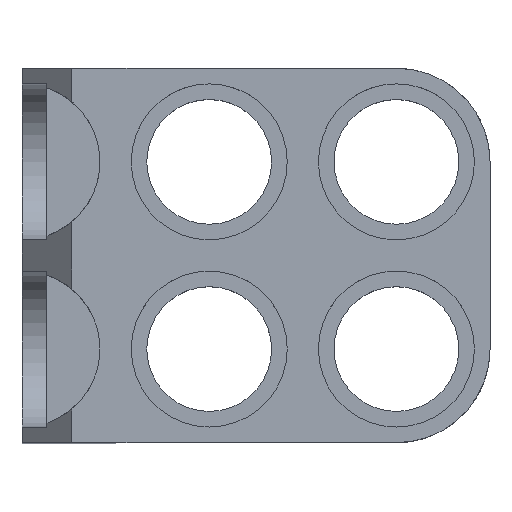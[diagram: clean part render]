
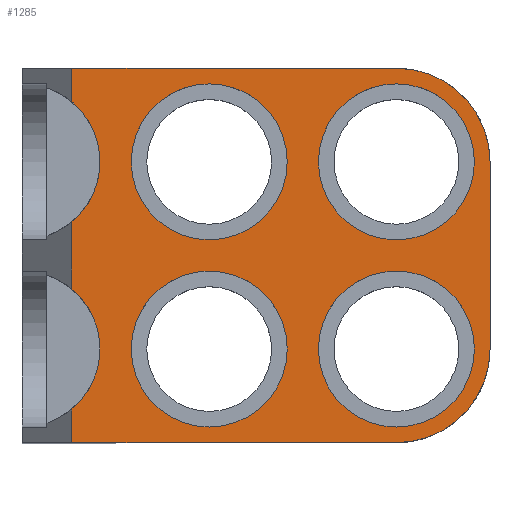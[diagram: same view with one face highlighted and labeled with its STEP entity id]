
A CAD part, top view. The second image highlights one B-rep face of the part: STEP entity #1285.
In plain terms, the highlighted planar face has unit normal (0, 0, 1).
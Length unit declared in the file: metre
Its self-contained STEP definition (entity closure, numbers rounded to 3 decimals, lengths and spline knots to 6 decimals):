
#16=LINE('',#2395,#87);
#25=LINE('',#2449,#96);
#27=LINE('',#2453,#98);
#47=LINE('',#2542,#118);
#64=LINE('',#2624,#135);
#65=LINE('',#2627,#136);
#87=VECTOR('',#1991,1.);
#96=VECTOR('',#2030,1.);
#98=VECTOR('',#2034,1.);
#118=VECTOR('',#2120,1.);
#135=VECTOR('',#2205,1.);
#136=VECTOR('',#2208,1.);
#169=PLANE('',#1906);
#195=CIRCLE('',#1821,0.0025);
#197=CIRCLE('',#1825,0.0025);
#199=CIRCLE('',#1829,0.0025);
#208=CIRCLE('',#1845,0.003);
#234=CIRCLE('',#1883,0.0025);
#249=CIRCLE('',#1907,0.003);
#250=CIRCLE('',#1908,0.0025);
#251=CIRCLE('',#1909,0.0025);
#417=ORIENTED_EDGE('',*,*,#689,.T.);
#418=ORIENTED_EDGE('',*,*,#606,.T.);
#419=ORIENTED_EDGE('',*,*,#690,.T.);
#420=ORIENTED_EDGE('',*,*,#691,.T.);
#421=ORIENTED_EDGE('',*,*,#618,.T.);
#422=ORIENTED_EDGE('',*,*,#650,.F.);
#423=ORIENTED_EDGE('',*,*,#608,.T.);
#424=ORIENTED_EDGE('',*,*,#590,.F.);
#425=ORIENTED_EDGE('',*,*,#587,.T.);
#426=ORIENTED_EDGE('',*,*,#580,.F.);
#427=ORIENTED_EDGE('',*,*,#667,.F.);
#428=ORIENTED_EDGE('',*,*,#692,.F.);
#429=ORIENTED_EDGE('',*,*,#693,.F.);
#430=ORIENTED_EDGE('',*,*,#594,.F.);
#580=EDGE_CURVE('',#733,#734,#195,.T.);
#587=EDGE_CURVE('',#740,#734,#16,.T.);
#590=EDGE_CURVE('',#740,#742,#197,.T.);
#594=EDGE_CURVE('',#744,#744,#199,.T.);
#606=EDGE_CURVE('',#756,#755,#25,.T.);
#608=EDGE_CURVE('',#757,#742,#27,.T.);
#618=EDGE_CURVE('',#767,#766,#208,.T.);
#650=EDGE_CURVE('',#757,#766,#47,.T.);
#667=EDGE_CURVE('',#806,#806,#234,.T.);
#689=EDGE_CURVE('',#733,#756,#64,.T.);
#690=EDGE_CURVE('',#755,#824,#249,.T.);
#691=EDGE_CURVE('',#824,#767,#65,.T.);
#692=EDGE_CURVE('',#825,#825,#250,.T.);
#693=EDGE_CURVE('',#826,#826,#251,.T.);
#733=VERTEX_POINT('',#2374);
#734=VERTEX_POINT('',#2376);
#740=VERTEX_POINT('',#2396);
#742=VERTEX_POINT('',#2408);
#744=VERTEX_POINT('',#2422);
#755=VERTEX_POINT('',#2448);
#756=VERTEX_POINT('',#2450);
#757=VERTEX_POINT('',#2454);
#766=VERTEX_POINT('',#2474);
#767=VERTEX_POINT('',#2476);
#806=VERTEX_POINT('',#2576);
#824=VERTEX_POINT('',#2626);
#825=VERTEX_POINT('',#2629);
#826=VERTEX_POINT('',#2631);
#913=EDGE_LOOP('',(#417,#418,#419,#420,#421,#422,#423,#424,#425,#426));
#914=EDGE_LOOP('',(#427));
#915=EDGE_LOOP('',(#428));
#916=EDGE_LOOP('',(#429));
#917=EDGE_LOOP('',(#430));
#1054=FACE_BOUND('',#913,.T.);
#1055=FACE_BOUND('',#914,.T.);
#1056=FACE_BOUND('',#915,.T.);
#1057=FACE_BOUND('',#916,.T.);
#1058=FACE_BOUND('',#917,.T.);
#1285=ADVANCED_FACE('',(#1054,#1055,#1056,#1057,#1058),#169,.T.);
#1821=AXIS2_PLACEMENT_3D('',#2375,#1981,#1982);
#1825=AXIS2_PLACEMENT_3D('',#2407,#1995,#1996);
#1829=AXIS2_PLACEMENT_3D('',#2421,#2004,#2005);
#1845=AXIS2_PLACEMENT_3D('',#2475,#2051,#2052);
#1883=AXIS2_PLACEMENT_3D('',#2575,#2150,#2151);
#1906=AXIS2_PLACEMENT_3D('',#2623,#2203,#2204);
#1907=AXIS2_PLACEMENT_3D('',#2625,#2206,#2207);
#1908=AXIS2_PLACEMENT_3D('',#2628,#2209,#2210);
#1909=AXIS2_PLACEMENT_3D('',#2630,#2211,#2212);
#1981=DIRECTION('',(0.,0.,1.));
#1982=DIRECTION('',(0.64,-0.768,0.));
#1991=DIRECTION('',(0.,-1.,0.));
#1995=DIRECTION('',(0.,0.,1.));
#1996=DIRECTION('',(0.64,-0.768,0.));
#2004=DIRECTION('',(0.,0.,1.));
#2005=DIRECTION('',(0.,-1.,0.));
#2030=DIRECTION('',(1.,0.,0.));
#2034=DIRECTION('',(0.,-1.,0.));
#2051=DIRECTION('',(0.,0.,1.));
#2052=DIRECTION('',(1.,0.,0.));
#2120=DIRECTION('',(1.,0.,0.));
#2150=DIRECTION('',(0.,0.,1.));
#2151=DIRECTION('',(0.,1.,0.));
#2203=DIRECTION('',(0.,0.,1.));
#2204=DIRECTION('',(1.,0.,0.));
#2205=DIRECTION('',(0.,-1.,0.));
#2206=DIRECTION('',(0.,0.,1.));
#2207=DIRECTION('',(0.,-1.,0.));
#2208=DIRECTION('',(0.,1.,0.));
#2209=DIRECTION('',(0.,0.,1.));
#2210=DIRECTION('',(0.,1.,0.));
#2211=DIRECTION('',(0.,0.,1.));
#2212=DIRECTION('',(0.,1.,0.));
#2374=CARTESIAN_POINT('',(0.0016,-0.004921,0.));
#2375=CARTESIAN_POINT('',(0.,-0.003,0.));
#2376=CARTESIAN_POINT('',(0.0016,-0.001079,0.));
#2395=CARTESIAN_POINT('',(0.0016,0.001079,0.));
#2396=CARTESIAN_POINT('',(0.0016,0.001079,0.));
#2407=CARTESIAN_POINT('',(0.,0.003,0.));
#2408=CARTESIAN_POINT('',(0.0016,0.004921,0.));
#2421=CARTESIAN_POINT('',(0.012,-0.003,0.));
#2422=CARTESIAN_POINT('',(0.012,-0.0055,0.));
#2448=CARTESIAN_POINT('',(0.012,-0.006,0.));
#2449=CARTESIAN_POINT('',(0.0016,-0.006,0.));
#2450=CARTESIAN_POINT('',(0.0016,-0.006,0.));
#2453=CARTESIAN_POINT('',(0.0016,0.006,0.));
#2454=CARTESIAN_POINT('',(0.0016,0.006,0.));
#2474=CARTESIAN_POINT('',(0.012,0.006,0.));
#2475=CARTESIAN_POINT('',(0.012,0.003,0.));
#2476=CARTESIAN_POINT('',(0.015,0.003,0.));
#2542=CARTESIAN_POINT('',(0.0016,0.006,0.));
#2575=CARTESIAN_POINT('',(0.006,-0.003,0.));
#2576=CARTESIAN_POINT('',(0.006,-0.0005,0.));
#2623=CARTESIAN_POINT('',(0.,-0.006,0.));
#2624=CARTESIAN_POINT('',(0.0016,-0.004921,0.));
#2625=CARTESIAN_POINT('',(0.012,-0.003,0.));
#2626=CARTESIAN_POINT('',(0.015,-0.003,0.));
#2627=CARTESIAN_POINT('',(0.015,-0.003,0.));
#2628=CARTESIAN_POINT('',(0.012,0.003,0.));
#2629=CARTESIAN_POINT('',(0.012,0.0055,0.));
#2630=CARTESIAN_POINT('',(0.006,0.003,0.));
#2631=CARTESIAN_POINT('',(0.006,0.0055,0.));
